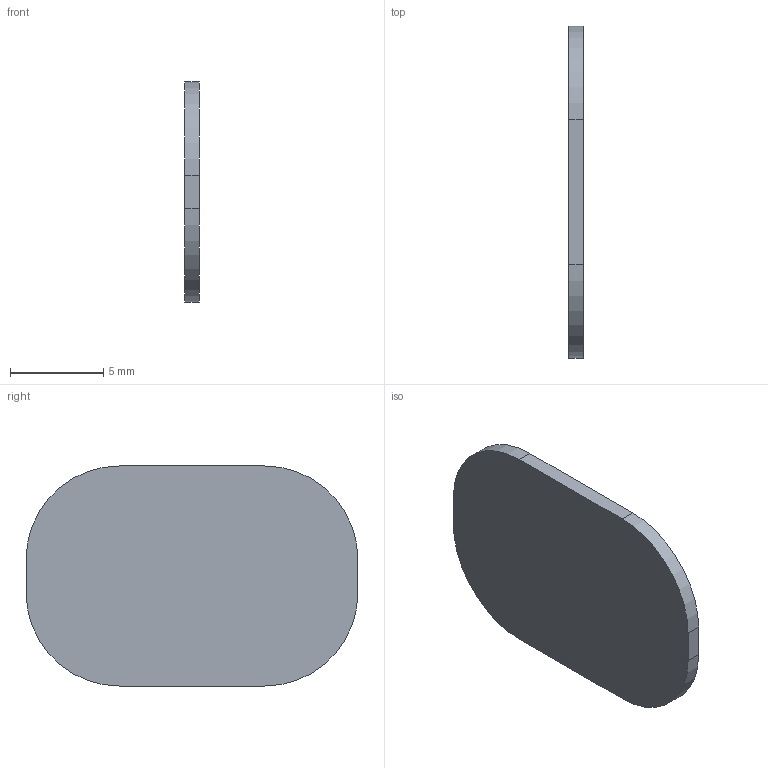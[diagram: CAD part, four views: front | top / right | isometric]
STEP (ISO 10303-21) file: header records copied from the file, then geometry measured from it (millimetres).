
FILE_DESCRIPTION(('Open CASCADE Model'),'2;1');
FILE_NAME('Open CASCADE Shape Model','2026-09-06T11:23:49',('Author'),( 'Open CASCADE'),'Open CASCADE STEP processor 7.7','Open CASCADE 7.7' ,'Unknown');
FILE_SCHEMA(('AUTOMOTIVE_DESIGN { 1 0 10303 214 1 1 1 1 }'));
Length unit declared in the file: millimetre
Products named in the file (1): Open CASCADE STEP translator 7.7 15
Bounding box: 0.8 x 17.8 x 11.8 mm (x, y, z)
Volume: 147.9 mm3; surface area: 424.9 mm2
Topology: 1 solids, 1 shells, 15 faces, 36 edges, 24 vertices
Faces by surface type: plane 11, cylinder 4
Entity records: 928 total; most frequent: CARTESIAN_POINT 172, DIRECTION 144, LINE 92, VECTOR 92, ORIENTED_EDGE 72, PCURVE 72, DEFINITIONAL_REPRESENTATION 72, EDGE_CURVE 36
